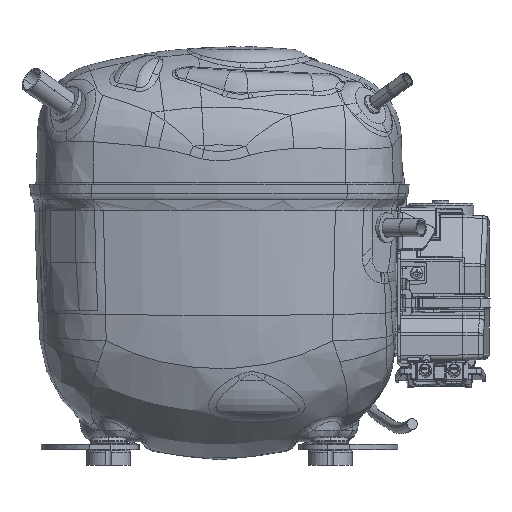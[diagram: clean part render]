
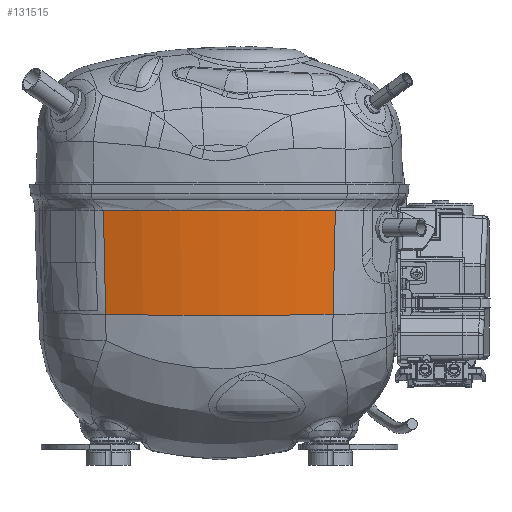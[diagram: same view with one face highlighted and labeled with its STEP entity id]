
A CAD part, left-side view. The second image highlights one B-rep face of the part: STEP entity #131515.
In plain terms, the highlighted toroidal (fillet/blend) face has major radius 577.515 mm and minor radius 225.485 mm.
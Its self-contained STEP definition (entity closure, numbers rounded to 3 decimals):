
#28863=CARTESIAN_POINT('',(-67.072,-66.337,
-14.966));
#41574=CARTESIAN_POINT('',(148.432,0.,
-13.903));
#41575=DIRECTION('',(0.005,0.,-1.));
#41576=DIRECTION('',(-0.956,-0.294,-0.005));
#41577=AXIS2_PLACEMENT_3D('',#41574,#41575,#41576);
#41579=CARTESIAN_POINT('',(148.432,0.,
-13.903));
#41580=DIRECTION('',(0.005,0.,-1.));
#41581=DIRECTION('',(-1.,0.,-0.005));
#41582=AXIS2_PLACEMENT_3D('',#41579,#41580,#41581);
#41608=CARTESIAN_POINT('',(-67.072,-66.337,
-14.966));
#41609=CARTESIAN_POINT('',(-67.086,-65.973,
-34.829));
#41610=CARTESIAN_POINT('',(-66.365,-65.567,
-54.692));
#41611=CARTESIAN_POINT('',(-64.932,-65.057,
-74.473));
#41613=CARTESIAN_POINT('',(-64.933,65.055,
-74.473));
#41614=CARTESIAN_POINT('',(-66.365,65.566,
-54.692));
#41615=CARTESIAN_POINT('',(-67.086,65.971,
-34.829));
#41616=CARTESIAN_POINT('',(-67.072,66.335,
-14.966));
#41658=CARTESIAN_POINT('',(150.277,0.,
-57.216));
#41659=DIRECTION('',(-0.08,0.,0.997));
#41660=DIRECTION('',(-0.954,0.289,-0.077));
#41661=AXIS2_PLACEMENT_3D('',#41658,#41659,#41660);
#41663=CARTESIAN_POINT('',(150.277,0.,
-57.216));
#41664=DIRECTION('',(-0.08,0.,0.997));
#41665=DIRECTION('',(-0.997,0.,-0.08));
#41666=AXIS2_PLACEMENT_3D('',#41663,#41664,#41665);
#47568=CARTESIAN_POINT('',(-64.932,-65.057,
-74.473));
#58443=VERTEX_POINT('',#28863);
#58449=VERTEX_POINT('',#47568);
#59949=CARTESIAN_POINT('',(-77.05,0.,
-15.015));
#59950=VERTEX_POINT('',#59949);
#59951=CARTESIAN_POINT('',(-67.073,66.333,
-14.966));
#59952=VERTEX_POINT('',#59951);
#59953=CARTESIAN_POINT('',(-74.491,0.,
-75.24));
#59954=VERTEX_POINT('',#59953);
#59955=CARTESIAN_POINT('',(-64.933,65.055,
-74.473));
#59956=VERTEX_POINT('',#59955);
#131499=CARTESIAN_POINT('',(725.94,0.,
-11.055));
#131500=DIRECTION('',(0.,-1.,0.));
#131501=DIRECTION('',(-1.,0.,-0.005));
#131502=AXIS2_PLACEMENT_3D('',#131499,#131500,#131501);
#131503=TOROIDAL_SURFACE('',#131502,577.515,225.485);
#131504=ORIENTED_EDGE('',*,*,#131490,.F.);
#131505=ORIENTED_EDGE('',*,*,#131488,.F.);
#131506=ORIENTED_EDGE('',*,*,#101471,.T.);
#131508=ORIENTED_EDGE('',*,*,#131507,.F.);
#131510=ORIENTED_EDGE('',*,*,#131509,.F.);
#131512=ORIENTED_EDGE('',*,*,#131511,.T.);
#131513=EDGE_LOOP('',(#131504,#131505,#131506,#131508,#131510,#131512));
#131514=FACE_OUTER_BOUND('',#131513,.F.);
#131515=ADVANCED_FACE('',(#131514),#131503,.T.);
#41578=CIRCLE('',#41577,225.485);
#41583=CIRCLE('',#41582,225.485);
#41612=B_SPLINE_CURVE_WITH_KNOTS('',3,(#41608,#41609,#41610,#41611),
.UNSPECIFIED.,.F.,.F.,(4,4),(0.,1.),.UNSPECIFIED.);
#41617=B_SPLINE_CURVE_WITH_KNOTS('',3,(#41613,#41614,#41615,#41616),
.UNSPECIFIED.,.F.,.F.,(4,4),(0.,1.),.UNSPECIFIED.);
#41662=CIRCLE('',#41661,225.489);
#41667=CIRCLE('',#41666,225.489);
#101471=EDGE_CURVE('',#58443,#58449,#41612,.T.);
#131488=EDGE_CURVE('',#58443,#59950,#41578,.T.);
#131490=EDGE_CURVE('',#59950,#59952,#41583,.T.);
#131507=EDGE_CURVE('',#59954,#58449,#41667,.T.);
#131509=EDGE_CURVE('',#59956,#59954,#41662,.T.);
#131511=EDGE_CURVE('',#59956,#59952,#41617,.T.);
